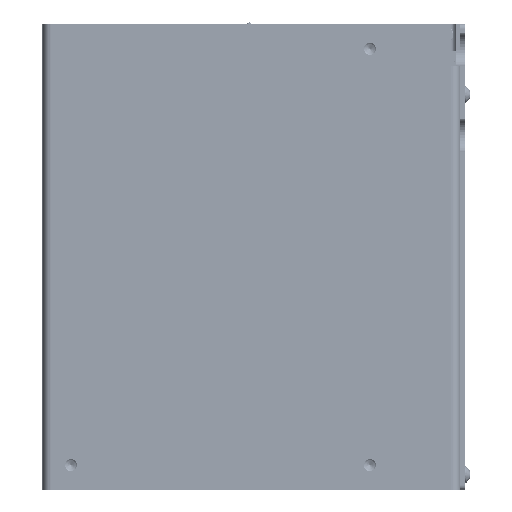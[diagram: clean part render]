
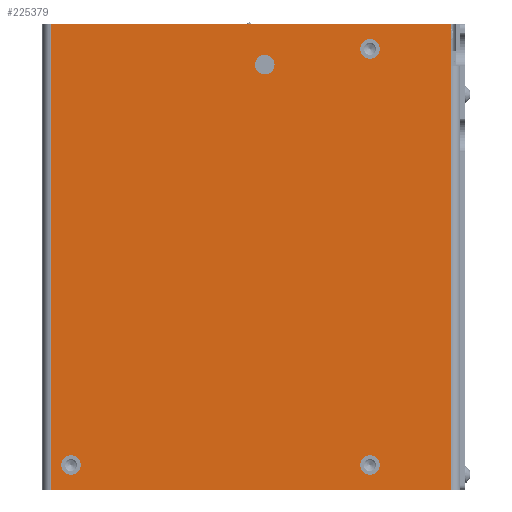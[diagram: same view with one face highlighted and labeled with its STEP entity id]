
A CAD part, front view. The second image highlights one B-rep face of the part: STEP entity #225379.
In plain terms, the highlighted planar face has unit normal (0, -1, 0) as drawn and (0, 0, -1) by its records, which use the part's own axes.
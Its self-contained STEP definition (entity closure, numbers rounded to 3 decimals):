
#15585 = CIRCLE ( 'NONE', #301560, 3.25 ) ;
#29524 = CARTESIAN_POINT ( 'NONE',  ( -65., -64., 0. ) ) ;
#32311 = DIRECTION ( 'NONE',  ( 1., 0., 0. ) ) ;
#35090 = EDGE_CURVE ( 'NONE', #594237, #94014, #238163, .T. ) ;
#41725 = CARTESIAN_POINT ( 'NONE',  ( -26.75, -69.25, 0. ) ) ;
#49611 = EDGE_CURVE ( 'NONE', #458417, #447953, #565414, .T. ) ;
#50027 = DIRECTION ( 'NONE',  ( -1., 0., 0. ) ) ;
#55051 = CARTESIAN_POINT ( 'NONE',  ( -136., 77.5, 0. ) ) ;
#70484 = ORIENTED_EDGE ( 'NONE', *, *, #302722, .F. ) ;
#78571 = FACE_BOUND ( 'NONE', #252363, .T. ) ;
#84758 = DIRECTION ( 'NONE',  ( 0., 0., 1. ) ) ;
#94014 = VERTEX_POINT ( 'NONE', #349726 ) ;
#103910 = DIRECTION ( 'NONE',  ( 0., -1., 0. ) ) ;
#110054 = CARTESIAN_POINT ( 'NONE',  ( -65., -64., 0. ) ) ;
#111093 = DIRECTION ( 'NONE',  ( -1., 0., 0. ) ) ;
#113013 = DIRECTION ( 'NONE',  ( 0., 0., -1. ) ) ;
#117041 = CARTESIAN_POINT ( 'NONE',  ( -129.5, 69.25, 0. ) ) ;
#129468 = CIRCLE ( 'NONE', #492387, 3.25 ) ;
#134425 = CARTESIAN_POINT ( 'NONE',  ( -30., -69.25, 0. ) ) ;
#148074 = EDGE_CURVE ( 'NONE', #603527, #571455, #234356, .T. ) ;
#148348 = DIRECTION ( 'NONE',  ( 0., 0., -1. ) ) ;
#153663 = EDGE_LOOP ( 'NONE', ( #70484, #689394 ) ) ;
#173188 = DIRECTION ( 'NONE',  ( 0., -1., 0. ) ) ;
#175714 = DIRECTION ( 'NONE',  ( -1., 0., 0. ) ) ;
#180346 = DIRECTION ( 'NONE',  ( -1., 0., 0. ) ) ;
#213284 = AXIS2_PLACEMENT_3D ( 'NONE', #134425, #573078, #565009 ) ;
#225379 = ADVANCED_FACE ( 'NONE', ( #814148, #363244, #236025, #78571, #392312 ), #407953, .F. ) ;
#234356 = LINE ( 'NONE', #608477, #783397 ) ;
#236025 = FACE_BOUND ( 'NONE', #725607, .T. ) ;
#237359 = CARTESIAN_POINT ( 'NONE',  ( -30., 69.25, 0. ) ) ;
#238163 = CIRCLE ( 'NONE', #345201, 3.25 ) ;
#252363 = EDGE_LOOP ( 'NONE', ( #262051, #327798 ) ) ;
#252617 = CARTESIAN_POINT ( 'NONE',  ( -126.25, 69.25, 0. ) ) ;
#262051 = ORIENTED_EDGE ( 'NONE', *, *, #331770, .F. ) ;
#263849 = CIRCLE ( 'NONE', #589569, 3.25 ) ;
#268255 = EDGE_CURVE ( 'NONE', #419635, #569362, #263849, .T. ) ;
#272966 = ORIENTED_EDGE ( 'NONE', *, *, #666762, .T. ) ;
#276345 = EDGE_CURVE ( 'NONE', #782518, #586555, #15585, .T. ) ;
#281752 = DIRECTION ( 'NONE',  ( -1., 0., 0. ) ) ;
#284476 = DIRECTION ( 'NONE',  ( 0., 0., -1. ) ) ;
#284576 = DIRECTION ( 'NONE',  ( -1., 0., 0. ) ) ;
#296490 = DIRECTION ( 'NONE',  ( 0., 0., -1. ) ) ;
#301560 = AXIS2_PLACEMENT_3D ( 'NONE', #29524, #284476, #281752 ) ;
#302722 = EDGE_CURVE ( 'NONE', #586555, #782518, #129468, .T. ) ;
#315077 = EDGE_LOOP ( 'NONE', ( #422078, #365893 ) ) ;
#327798 = ORIENTED_EDGE ( 'NONE', *, *, #35090, .F. ) ;
#331770 = EDGE_CURVE ( 'NONE', #94014, #594237, #539696, .T. ) ;
#343849 = VECTOR ( 'NONE', #173188, 1000. ) ;
#345201 = AXIS2_PLACEMENT_3D ( 'NONE', #237359, #804707, #111093 ) ;
#345970 = CARTESIAN_POINT ( 'NONE',  ( -132.75, 69.25, 0. ) ) ;
#349726 = CARTESIAN_POINT ( 'NONE',  ( -33.25, 69.25, 0. ) ) ;
#354134 = CIRCLE ( 'NONE', #213284, 3.25 ) ;
#354301 = LINE ( 'NONE', #660698, #501382 ) ;
#355204 = EDGE_LOOP ( 'NONE', ( #358562, #564024, #430514, #272966, #396029 ) ) ;
#358562 = ORIENTED_EDGE ( 'NONE', *, *, #148074, .T. ) ;
#361166 = DIRECTION ( 'NONE',  ( 0., 0., -1. ) ) ;
#363244 = FACE_BOUND ( 'NONE', #315077, .T. ) ;
#365893 = ORIENTED_EDGE ( 'NONE', *, *, #639725, .F. ) ;
#372137 = CARTESIAN_POINT ( 'NONE',  ( -61.75, -64., 0. ) ) ;
#392312 = FACE_OUTER_BOUND ( 'NONE', #355204, .T. ) ;
#396029 = ORIENTED_EDGE ( 'NONE', *, *, #539027, .F. ) ;
#400455 = DIRECTION ( 'NONE',  ( -1., 0., 0. ) ) ;
#403049 = LINE ( 'NONE', #413683, #472374 ) ;
#405225 = CARTESIAN_POINT ( 'NONE',  ( 0., 77.5, 0. ) ) ;
#405946 = ORIENTED_EDGE ( 'NONE', *, *, #652019, .F. ) ;
#407953 = PLANE ( 'NONE',  #624536 ) ;
#413683 = CARTESIAN_POINT ( 'NONE',  ( -3., 77.5, 0. ) ) ;
#418865 = DIRECTION ( 'NONE',  ( 0., 0., -1. ) ) ;
#419635 = VERTEX_POINT ( 'NONE', #252617 ) ;
#422078 = ORIENTED_EDGE ( 'NONE', *, *, #457719, .F. ) ;
#422206 = ORIENTED_EDGE ( 'NONE', *, *, #268255, .F. ) ;
#430514 = ORIENTED_EDGE ( 'NONE', *, *, #49611, .F. ) ;
#435377 = CIRCLE ( 'NONE', #626818, 3.25 ) ;
#447953 = VERTEX_POINT ( 'NONE', #662202 ) ;
#455947 = CARTESIAN_POINT ( 'NONE',  ( -3., 77.5, 0. ) ) ;
#457665 = VECTOR ( 'NONE', #175714, 1000. ) ;
#457719 = EDGE_CURVE ( 'NONE', #594465, #809221, #435377, .T. ) ;
#458417 = VERTEX_POINT ( 'NONE', #455947 ) ;
#472374 = VECTOR ( 'NONE', #103910, 1000. ) ;
#474276 = DIRECTION ( 'NONE',  ( 0., 1., 0. ) ) ;
#477620 = DIRECTION ( 'NONE',  ( -1., 0., 0. ) ) ;
#481691 = LINE ( 'NONE', #55051, #343849 ) ;
#492387 = AXIS2_PLACEMENT_3D ( 'NONE', #110054, #296490, #477620 ) ;
#501382 = VECTOR ( 'NONE', #474276, 1000. ) ;
#511269 = VERTEX_POINT ( 'NONE', #736852 ) ;
#539027 = EDGE_CURVE ( 'NONE', #603527, #511269, #354301, .T. ) ;
#539696 = CIRCLE ( 'NONE', #735185, 3.25 ) ;
#548130 = DIRECTION ( 'NONE',  ( -1., 0., 0. ) ) ;
#549749 = CARTESIAN_POINT ( 'NONE',  ( -3., -77.5, 0. ) ) ;
#556992 = CARTESIAN_POINT ( 'NONE',  ( -30., 69.25, 0. ) ) ;
#559174 = CARTESIAN_POINT ( 'NONE',  ( 0., 77.5, 0. ) ) ;
#564024 = ORIENTED_EDGE ( 'NONE', *, *, #812587, .F. ) ;
#565009 = DIRECTION ( 'NONE',  ( -1., 0., 0. ) ) ;
#565414 = LINE ( 'NONE', #559174, #457665 ) ;
#569362 = VERTEX_POINT ( 'NONE', #345970 ) ;
#571455 = VERTEX_POINT ( 'NONE', #702535 ) ;
#573078 = DIRECTION ( 'NONE',  ( 0., 0., -1. ) ) ;
#586555 = VERTEX_POINT ( 'NONE', #723040 ) ;
#589569 = AXIS2_PLACEMENT_3D ( 'NONE', #117041, #361166, #180346 ) ;
#594237 = VERTEX_POINT ( 'NONE', #727302 ) ;
#594465 = VERTEX_POINT ( 'NONE', #707388 ) ;
#603527 = VERTEX_POINT ( 'NONE', #549749 ) ;
#605297 = CARTESIAN_POINT ( 'NONE',  ( -30., -69.25, 0. ) ) ;
#608477 = CARTESIAN_POINT ( 'NONE',  ( 0., -77.5, 0. ) ) ;
#624536 = AXIS2_PLACEMENT_3D ( 'NONE', #405225, #84758, #32311 ) ;
#626818 = AXIS2_PLACEMENT_3D ( 'NONE', #605297, #418865, #284576 ) ;
#639725 = EDGE_CURVE ( 'NONE', #809221, #594465, #354134, .T. ) ;
#652019 = EDGE_CURVE ( 'NONE', #569362, #419635, #758139, .T. ) ;
#660698 = CARTESIAN_POINT ( 'NONE',  ( -3., -77.5, 0. ) ) ;
#662202 = CARTESIAN_POINT ( 'NONE',  ( -136., 77.5, 0. ) ) ;
#666762 = EDGE_CURVE ( 'NONE', #458417, #511269, #403049, .T. ) ;
#689394 = ORIENTED_EDGE ( 'NONE', *, *, #276345, .F. ) ;
#702535 = CARTESIAN_POINT ( 'NONE',  ( -136., -77.5, 0. ) ) ;
#704996 = AXIS2_PLACEMENT_3D ( 'NONE', #707721, #148348, #400455 ) ;
#707388 = CARTESIAN_POINT ( 'NONE',  ( -33.25, -69.25, 0. ) ) ;
#707721 = CARTESIAN_POINT ( 'NONE',  ( -129.5, 69.25, 0. ) ) ;
#723040 = CARTESIAN_POINT ( 'NONE',  ( -68.25, -64., 0. ) ) ;
#725607 = EDGE_LOOP ( 'NONE', ( #405946, #422206 ) ) ;
#727302 = CARTESIAN_POINT ( 'NONE',  ( -26.75, 69.25, 0. ) ) ;
#735185 = AXIS2_PLACEMENT_3D ( 'NONE', #556992, #113013, #50027 ) ;
#736852 = CARTESIAN_POINT ( 'NONE',  ( -3., -63.5, 0. ) ) ;
#758139 = CIRCLE ( 'NONE', #704996, 3.25 ) ;
#782518 = VERTEX_POINT ( 'NONE', #372137 ) ;
#783397 = VECTOR ( 'NONE', #548130, 1000. ) ;
#804707 = DIRECTION ( 'NONE',  ( 0., 0., -1. ) ) ;
#809221 = VERTEX_POINT ( 'NONE', #41725 ) ;
#812587 = EDGE_CURVE ( 'NONE', #447953, #571455, #481691, .T. ) ;
#814148 = FACE_BOUND ( 'NONE', #153663, .T. ) ;
